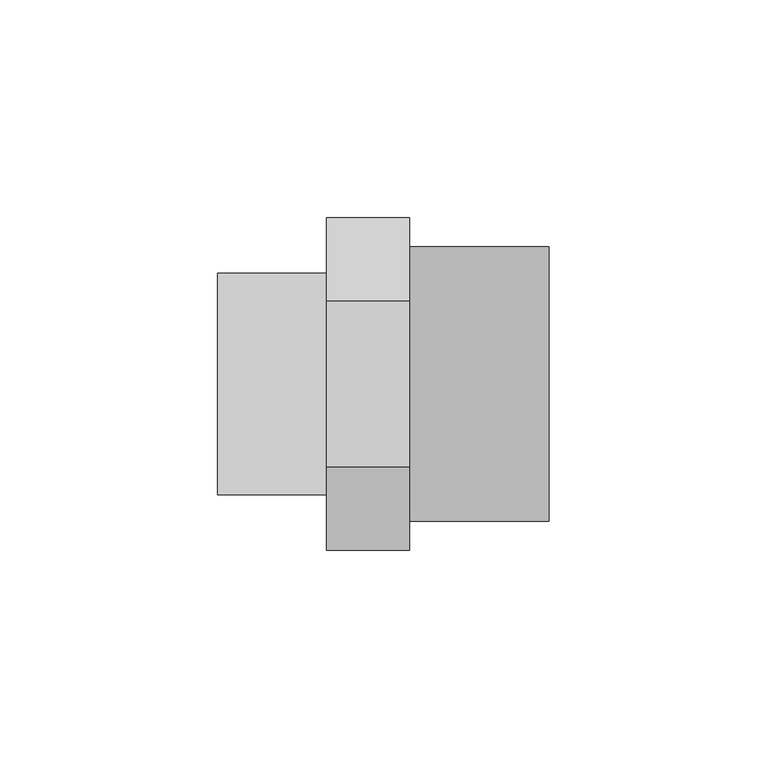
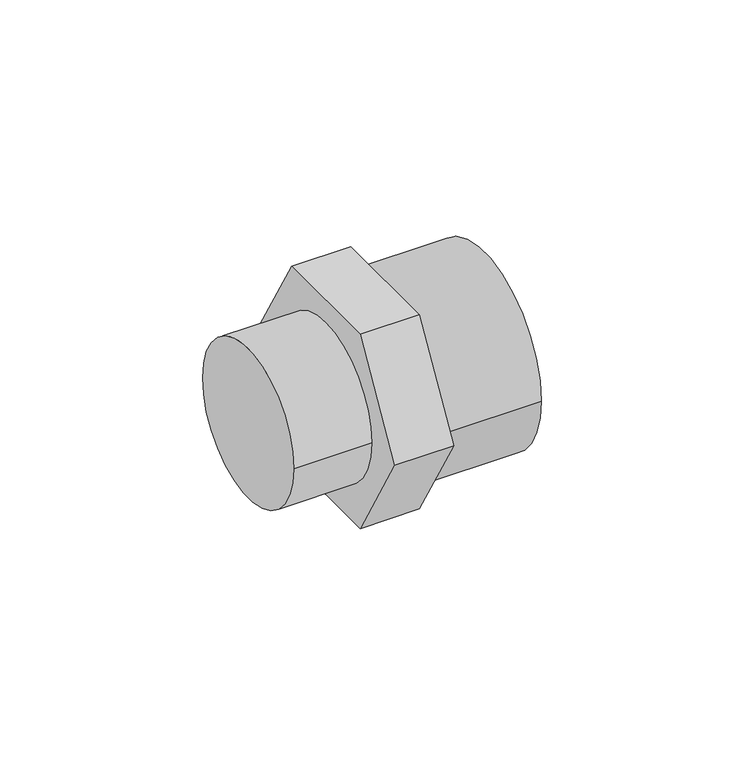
"""IFC4 building model written with IfcOpenShell, lengths in millimetres: pipe fitting geometry, 01101081 : Mamelons de réduction multiple FxMxM."""

from ifc_helpers import new_model, si_unit, point, frame, origin, origin_2d, place, context, project, spatial, polyline, circle_curve, trimmed, segment, composite_curve, outline, extrude, source, transform, mapped, element, save


def pipe_fitting_8bf3d23a(model_context):
    return source(origin(), model_context, "Body", "SweptSolid", [
        extrude(outline(composite_curve([segment(trimmed(circle_curve(origin_2d(), 25.4), [point((25.4, 0.0))], [point((-25.4, 0.0))], False, "CARTESIAN"), True, "CONTINUOUS"), segment(trimmed(circle_curve(origin_2d(), 25.4), [point((-25.4, 0.0))], [point((25.4, 0.0))], False, "CARTESIAN"), True, "CONTINUOUS")], self_intersect=False)), frame((0.0, 0.0, 0.0), z_axis=(1.0, 0.0, 0.0), x_axis=(0.0, 1.0, 0.0)), (0.0, 0.0, 1.0), 25.0),
        extrude(outline(polyline([(-19.0525589, 33.0), (19.0525589, 33.0), (38.1051178, 0.0), (19.0525589, -33.0), (-19.0525589, -33.0), (-38.1051178, 0.0), (-19.0525589, 33.0)])), frame((25.0, 0.0, 0.0), z_axis=(1.0, 0.0, 0.0), x_axis=(0.0, 1.0, 0.0)), (0.0, 0.0, 1.0), 19.0),
        extrude(outline(composite_curve([segment(trimmed(circle_curve(origin_2d(), 31.5), [point((-31.5, 0.0))], [point((31.5, 0.0))], False, "CARTESIAN"), True, "CONTINUOUS"), segment(trimmed(circle_curve(origin_2d(), 31.5), [point((31.5, 0.0))], [point((-31.5, 0.0))], False, "CARTESIAN"), True, "CONTINUOUS")], self_intersect=False)), frame((44.0, 0.0, 0.0), z_axis=(1.0, 0.0, 0.0), x_axis=(0.0, 1.0, 0.0)), (0.0, 0.0, 1.0), 32.0),
    ])


if __name__ == "__main__":
    model = new_model("IFC4")
    model_context = context("Model", 3, world=origin())
    ifc_project = project(units=[si_unit("LENGTHUNIT", "METRE", prefix="MILLI")], contexts=[model_context])
    site = spatial("IfcSite", under=ifc_project)
    building = spatial("IfcBuilding", under=site)
    placement = place(None, origin())
    pipe_fitting_shape = pipe_fitting_8bf3d23a(model_context)
    element("IfcPipeFitting", 1, ObjectType="01101081 : Mamelons de réduction multiple FxMxM", at=placement, inside=building, context=model_context, shape_type="MappedRepresentation", body=[
        mapped(pipe_fitting_shape, transform((0.0, 0.0, 0.0), x_axis=(1.0, 0.0, 0.0), y_axis=(0.0, 1.0, 0.0), z_axis=(0.0, 0.0, 1.0))),
    ])
    save(model, "model.ifc")
